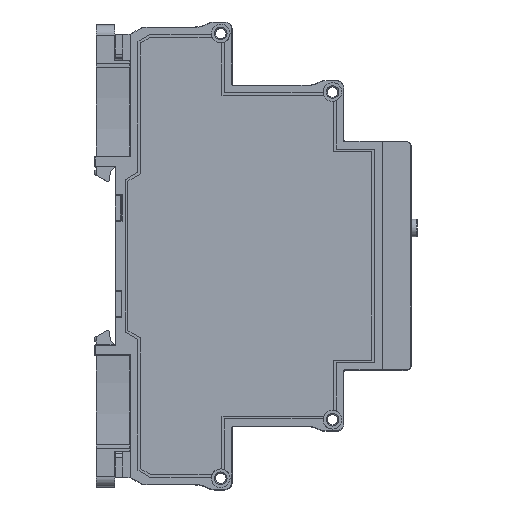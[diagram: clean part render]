
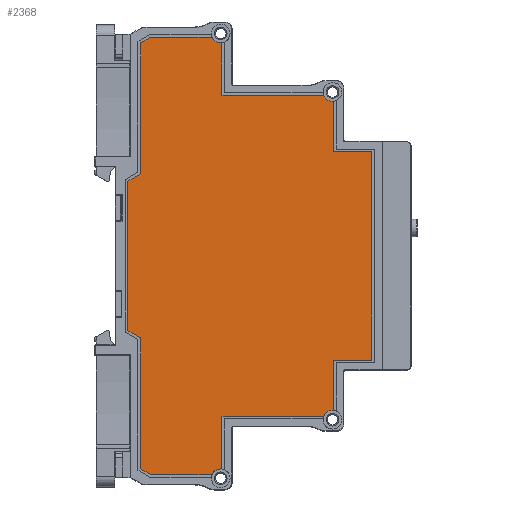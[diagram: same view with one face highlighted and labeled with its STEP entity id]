
A CAD part, top view. The second image highlights one B-rep face of the part: STEP entity #2368.
In plain terms, the highlighted planar face has unit normal (0, 0, 1) as drawn and (1, 0, 0) by its records, which use the part's own axes.
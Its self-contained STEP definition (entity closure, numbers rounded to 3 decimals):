
#2368=ADVANCED_FACE('',(#37830),#37832,.T.);
#37830=FACE_BOUND('',#37831,.T.);
#37831=EDGE_LOOP('',(#65840,#65841,#65842,#65843,#65844,#65845,#65846,#65847,#65848,
#65849,#65850,#65851,#65852,#65853,#65854,#65855,#65856,#65857,#65858,#65859,#65860,
#65861));
#37832=PLANE('',#37833);
#37833=AXIS2_PLACEMENT_3D('',#37834,#37835,#37836);
#37834=CARTESIAN_POINT('',(17.5,0.,0.));
#37835=DIRECTION('',(1.,0.,0.));
#37836=DIRECTION('',(0.,0.,-1.));
#65840=ORIENTED_EDGE('',*,*,#90128,.F.);
#65841=ORIENTED_EDGE('',*,*,#90129,.T.);
#65842=ORIENTED_EDGE('',*,*,#89516,.F.);
#65843=ORIENTED_EDGE('',*,*,#90130,.T.);
#65844=ORIENTED_EDGE('',*,*,#90131,.T.);
#65845=ORIENTED_EDGE('',*,*,#90132,.T.);
#65846=ORIENTED_EDGE('',*,*,#90133,.T.);
#65847=ORIENTED_EDGE('',*,*,#90134,.T.);
#65848=ORIENTED_EDGE('',*,*,#89500,.F.);
#65849=ORIENTED_EDGE('',*,*,#90135,.F.);
#65850=ORIENTED_EDGE('',*,*,#90136,.T.);
#65851=ORIENTED_EDGE('',*,*,#89510,.F.);
#65852=ORIENTED_EDGE('',*,*,#90137,.T.);
#65853=ORIENTED_EDGE('',*,*,#90138,.F.);
#65854=ORIENTED_EDGE('',*,*,#90139,.T.);
#65855=ORIENTED_EDGE('',*,*,#90140,.T.);
#65856=ORIENTED_EDGE('',*,*,#90141,.T.);
#65857=ORIENTED_EDGE('',*,*,#90142,.T.);
#65858=ORIENTED_EDGE('',*,*,#90143,.T.);
#65859=ORIENTED_EDGE('',*,*,#90144,.F.);
#65860=ORIENTED_EDGE('',*,*,#90145,.T.);
#65861=ORIENTED_EDGE('',*,*,#89526,.F.);
#89500=EDGE_CURVE('',#100880,#100865,#100882,.T.);
#89510=EDGE_CURVE('',#100900,#100885,#100902,.T.);
#89516=EDGE_CURVE('',#100912,#100914,#100915,.T.);
#89526=EDGE_CURVE('',#100932,#100934,#100935,.T.);
#90128=EDGE_CURVE('',#102032,#100932,#102033,.T.);
#90129=EDGE_CURVE('',#102032,#100914,#102034,.T.);
#90130=EDGE_CURVE('',#100912,#102035,#102036,.T.);
#90131=EDGE_CURVE('',#102035,#102037,#102038,.T.);
#90132=EDGE_CURVE('',#102037,#102039,#102040,.T.);
#90133=EDGE_CURVE('',#102039,#102041,#102042,.T.);
#90134=EDGE_CURVE('',#102041,#100865,#102043,.T.);
#90135=EDGE_CURVE('',#102044,#100880,#102045,.T.);
#90136=EDGE_CURVE('',#102044,#100885,#102046,.T.);
#90137=EDGE_CURVE('',#100900,#102047,#102048,.T.);
#90138=EDGE_CURVE('',#102049,#102047,#102050,.T.);
#90139=EDGE_CURVE('',#102049,#102051,#102052,.T.);
#90140=EDGE_CURVE('',#102051,#102053,#102054,.T.);
#90141=EDGE_CURVE('',#102053,#102055,#102056,.T.);
#90142=EDGE_CURVE('',#102055,#102057,#102058,.T.);
#90143=EDGE_CURVE('',#102057,#102059,#102060,.T.);
#90144=EDGE_CURVE('',#102061,#102059,#102062,.T.);
#90145=EDGE_CURVE('',#102061,#100934,#102063,.T.);
#100865=VERTEX_POINT('',#120389);
#100880=VERTEX_POINT('',#120422);
#100882=CIRCLE('',#120426,1.85);
#100885=VERTEX_POINT('',#120435);
#100900=VERTEX_POINT('',#120468);
#100902=CIRCLE('',#120472,1.85);
#100912=VERTEX_POINT('',#120496);
#100914=VERTEX_POINT('',#120500);
#100915=CIRCLE('',#120501,1.85);
#100932=VERTEX_POINT('',#120542);
#100934=VERTEX_POINT('',#120546);
#100935=CIRCLE('',#120547,1.85);
#102032=VERTEX_POINT('',#122874);
#102033=LINE('',#122875,#122876);
#102034=LINE('',#122878,#122879);
#102035=VERTEX_POINT('',#122881);
#102036=LINE('',#122882,#122883);
#102037=VERTEX_POINT('',#122885);
#102038=LINE('',#122886,#122887);
#102039=VERTEX_POINT('',#122889);
#102040=LINE('',#122890,#122891);
#102041=VERTEX_POINT('',#122893);
#102042=LINE('',#122894,#122895);
#102043=LINE('',#122897,#122898);
#102044=VERTEX_POINT('',#122900);
#102045=LINE('',#122901,#122902);
#102046=LINE('',#122904,#122905);
#102047=VERTEX_POINT('',#122907);
#102048=LINE('',#122908,#122909);
#102049=VERTEX_POINT('',#122911);
#102050=LINE('',#122912,#122913);
#102051=VERTEX_POINT('',#122915);
#102052=LINE('',#122916,#122917);
#102053=VERTEX_POINT('',#122919);
#102054=LINE('',#122920,#122921);
#102055=VERTEX_POINT('',#122923);
#102056=LINE('',#122924,#122925);
#102057=VERTEX_POINT('',#122927);
#102058=LINE('',#122928,#122929);
#102059=VERTEX_POINT('',#122931);
#102060=LINE('',#122932,#122933);
#102061=VERTEX_POINT('',#122935);
#102062=LINE('',#122936,#122937);
#102063=LINE('',#122939,#122940);
#120389=CARTESIAN_POINT('',(17.5,-30.541,38.985));
#120422=CARTESIAN_POINT('',(17.5,-31.7,37.015));
#120426=AXIS2_PLACEMENT_3D('',#120427,#120428,#120429);
#120427=CARTESIAN_POINT('',(17.5,-32.375,38.738));
#120428=DIRECTION('',(1.,0.,0.));
#120429=DIRECTION('',(0.,0.365,-0.931));
#120435=CARTESIAN_POINT('',(17.5,-42.103,16.897));
#120468=CARTESIAN_POINT('',(17.5,-43.2,14.953));
#120472=AXIS2_PLACEMENT_3D('',#120473,#120474,#120475);
#120473=CARTESIAN_POINT('',(17.5,-43.937,16.65));
#120474=DIRECTION('',(1.,0.,0.));
#120475=DIRECTION('',(0.,0.398,-0.917));
#120496=CARTESIAN_POINT('',(17.5,30.541,38.985));
#120500=CARTESIAN_POINT('',(17.5,31.7,37.015));
#120501=AXIS2_PLACEMENT_3D('',#120502,#120503,#120504);
#120502=CARTESIAN_POINT('',(17.5,32.375,38.738));
#120503=DIRECTION('',(1.,0.,0.));
#120504=DIRECTION('',(0.,-0.991,0.134));
#120542=CARTESIAN_POINT('',(17.5,42.103,16.897));
#120546=CARTESIAN_POINT('',(17.5,43.2,14.953));
#120547=AXIS2_PLACEMENT_3D('',#120548,#120549,#120550);
#120548=CARTESIAN_POINT('',(17.5,43.937,16.65));
#120549=DIRECTION('',(1.,0.,0.));
#120550=DIRECTION('',(0.,-0.991,0.134));
#122874=CARTESIAN_POINT('',(17.5,31.7,16.897));
#122875=CARTESIAN_POINT('',(17.5,31.7,16.897));
#122876=VECTOR('',#122877,1.);
#122877=DIRECTION('',(0.,1.,0.));
#122878=CARTESIAN_POINT('',(17.5,31.7,16.897));
#122879=VECTOR('',#122880,1.);
#122880=DIRECTION('',(0.,0.,1.));
#122881=CARTESIAN_POINT('',(17.5,20.6,38.985));
#122882=CARTESIAN_POINT('',(17.5,30.541,38.985));
#122883=VECTOR('',#122884,1.);
#122884=DIRECTION('',(0.,-1.,0.));
#122885=CARTESIAN_POINT('',(17.5,20.6,46.53));
#122886=CARTESIAN_POINT('',(17.5,20.6,38.985));
#122887=VECTOR('',#122888,1.);
#122888=DIRECTION('',(0.,0.,1.));
#122889=CARTESIAN_POINT('',(17.5,-20.6,46.53));
#122890=CARTESIAN_POINT('',(17.5,20.6,46.53));
#122891=VECTOR('',#122892,1.);
#122892=DIRECTION('',(0.,-1.,0.));
#122893=CARTESIAN_POINT('',(17.5,-20.6,38.985));
#122894=CARTESIAN_POINT('',(17.5,-20.6,46.53));
#122895=VECTOR('',#122896,1.);
#122896=DIRECTION('',(0.,0.,-1.));
#122897=CARTESIAN_POINT('',(17.5,-20.6,38.985));
#122898=VECTOR('',#122899,1.);
#122899=DIRECTION('',(0.,-1.,0.));
#122900=CARTESIAN_POINT('',(17.5,-31.7,16.897));
#122901=CARTESIAN_POINT('',(17.5,-31.7,16.897));
#122902=VECTOR('',#122903,1.);
#122903=DIRECTION('',(0.,0.,1.));
#122904=CARTESIAN_POINT('',(17.5,-31.7,16.897));
#122905=VECTOR('',#122906,1.);
#122906=DIRECTION('',(0.,-1.,0.));
#122907=CARTESIAN_POINT('',(17.5,-43.2,2.761));
#122908=CARTESIAN_POINT('',(17.5,-43.2,14.953));
#122909=VECTOR('',#122910,1.);
#122910=DIRECTION('',(0.,0.,-1.));
#122911=CARTESIAN_POINT('',(17.5,-42.068,0.8));
#122912=CARTESIAN_POINT('',(17.5,-42.068,0.8));
#122913=VECTOR('',#122914,1.);
#122914=DIRECTION('',(0.,-0.5,0.866));
#122915=CARTESIAN_POINT('',(17.5,-16.211,0.8));
#122916=CARTESIAN_POINT('',(17.5,-42.068,0.8));
#122917=VECTOR('',#122918,1.);
#122918=DIRECTION('',(0.,1.,0.));
#122919=CARTESIAN_POINT('',(17.5,-14.768,-1.7));
#122920=CARTESIAN_POINT('',(17.5,-16.211,0.8));
#122921=VECTOR('',#122922,1.);
#122922=DIRECTION('',(0.,0.5,-0.866));
#122923=CARTESIAN_POINT('',(17.5,14.768,-1.7));
#122924=CARTESIAN_POINT('',(17.5,-14.768,-1.7));
#122925=VECTOR('',#122926,1.);
#122926=DIRECTION('',(0.,1.,0.));
#122927=CARTESIAN_POINT('',(17.5,16.211,0.8));
#122928=CARTESIAN_POINT('',(17.5,14.768,-1.7));
#122929=VECTOR('',#122930,1.);
#122930=DIRECTION('',(0.,0.5,0.866));
#122931=CARTESIAN_POINT('',(17.5,42.068,0.8));
#122932=CARTESIAN_POINT('',(17.5,16.211,0.8));
#122933=VECTOR('',#122934,1.);
#122934=DIRECTION('',(0.,1.,0.));
#122935=CARTESIAN_POINT('',(17.5,43.2,2.761));
#122936=CARTESIAN_POINT('',(17.5,43.2,2.761));
#122937=VECTOR('',#122938,1.);
#122938=DIRECTION('',(0.,-0.5,-0.866));
#122939=CARTESIAN_POINT('',(17.5,43.2,2.761));
#122940=VECTOR('',#122941,1.);
#122941=DIRECTION('',(0.,0.,1.));
